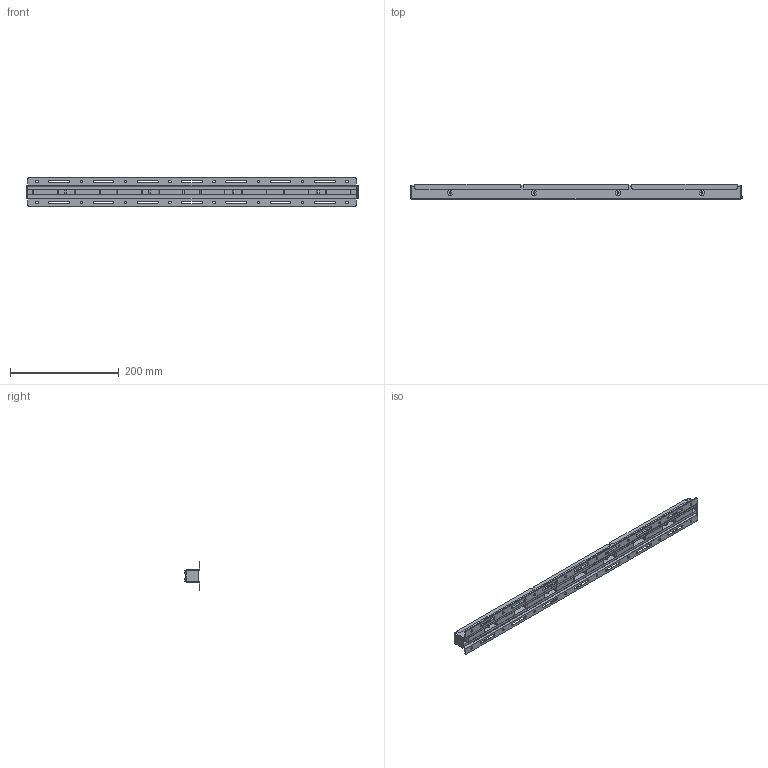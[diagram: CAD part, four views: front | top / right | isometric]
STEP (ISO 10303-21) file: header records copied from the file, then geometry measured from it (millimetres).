
FILE_DESCRIPTION (( 'STEP AP203' ), '1' );
FILE_NAME ('TH2400.STEP', '2018-07-13T14:40:45', ( '' ), ( '' ), 'SwSTEP 2.0', 'SolidWorks 2015', '' );
FILE_SCHEMA (( 'CONFIG_CONTROL_DESIGN' ));
Length unit declared in the file: inch
Products named in the file (1): TH2400
Bounding box: 609.6 x 28.57 x 51.59 mm (x, y, z)
Volume: 282575.8 mm3; surface area: 198256.2 mm2
Topology: 15 solids, 15 shells, 506 faces, 1256 edges, 764 vertices
Faces by surface type: plane 202, cylinder 184, torus 96, cone 16, bspline 8
Entity records: 15511 total; most frequent: CARTESIAN_POINT 2939, DIRECTION 2770, ORIENTED_EDGE 2496, EDGE_CURVE 1248, AXIS2_PLACEMENT_3D 1051, VERTEX_POINT 764, LINE 668, VECTOR 668
